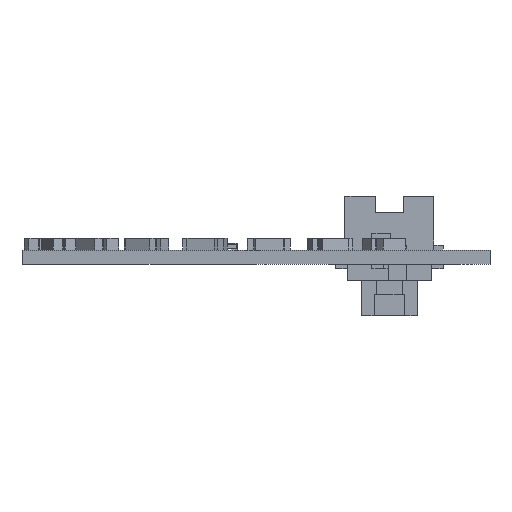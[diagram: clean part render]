
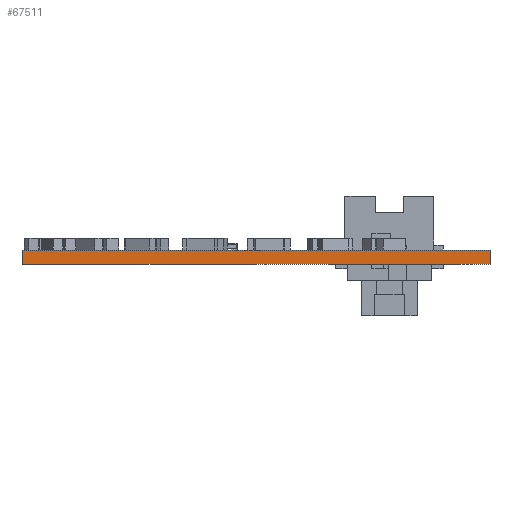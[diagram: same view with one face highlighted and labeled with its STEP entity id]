
A CAD part, left-side view. The second image highlights one B-rep face of the part: STEP entity #67511.
In plain terms, the highlighted planar face has unit normal (-1, 0, 0).
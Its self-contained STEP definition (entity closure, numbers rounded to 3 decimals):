
#67395 = EDGE_CURVE('',#67396,#67398,#67400,.T.);
#67396 = VERTEX_POINT('',#67397);
#67397 = CARTESIAN_POINT('',(10.,30.,0.));
#67398 = VERTEX_POINT('',#67399);
#67399 = CARTESIAN_POINT('',(10.,30.,0.6));
#67400 = SURFACE_CURVE('',#67401,(#67405,#67417),.PCURVE_S1.);
#67401 = LINE('',#67402,#67403);
#67402 = CARTESIAN_POINT('',(10.,30.,0.));
#67403 = VECTOR('',#67404,1.);
#67404 = DIRECTION('',(0.,0.,1.));
#67405 = PCURVE('',#67406,#67411);
#67406 = PLANE('',#67407);
#67407 = AXIS2_PLACEMENT_3D('',#67408,#67409,#67410);
#67408 = CARTESIAN_POINT('',(10.,30.,0.));
#67409 = DIRECTION('',(0.,1.,0.));
#67410 = DIRECTION('',(1.,0.,0.));
#67411 = DEFINITIONAL_REPRESENTATION('',(#67412),#67416);
#67412 = LINE('',#67413,#67414);
#67413 = CARTESIAN_POINT('',(0.,0.));
#67414 = VECTOR('',#67415,1.);
#67415 = DIRECTION('',(0.,-1.));
#67416 = ( GEOMETRIC_REPRESENTATION_CONTEXT(2) 
PARAMETRIC_REPRESENTATION_CONTEXT() REPRESENTATION_CONTEXT('2D SPACE',''
  ) );
#67417 = PCURVE('',#67418,#67423);
#67418 = PLANE('',#67419);
#67419 = AXIS2_PLACEMENT_3D('',#67420,#67421,#67422);
#67420 = CARTESIAN_POINT('',(10.,10.,0.));
#67421 = DIRECTION('',(-1.,0.,0.));
#67422 = DIRECTION('',(0.,1.,0.));
#67423 = DEFINITIONAL_REPRESENTATION('',(#67424),#67428);
#67424 = LINE('',#67425,#67426);
#67425 = CARTESIAN_POINT('',(20.,0.));
#67426 = VECTOR('',#67427,1.);
#67427 = DIRECTION('',(0.,-1.));
#67428 = ( GEOMETRIC_REPRESENTATION_CONTEXT(2) 
PARAMETRIC_REPRESENTATION_CONTEXT() REPRESENTATION_CONTEXT('2D SPACE',''
  ) );
#67446 = PLANE('',#67447);
#67447 = AXIS2_PLACEMENT_3D('',#67448,#67449,#67450);
#67448 = CARTESIAN_POINT('',(20.,20.,0.6));
#67449 = DIRECTION('',(-0.,-0.,-1.));
#67450 = DIRECTION('',(-1.,0.,0.));
#67500 = PLANE('',#67501);
#67501 = AXIS2_PLACEMENT_3D('',#67502,#67503,#67504);
#67502 = CARTESIAN_POINT('',(20.,20.,0.));
#67503 = DIRECTION('',(-0.,-0.,-1.));
#67504 = DIRECTION('',(-1.,0.,0.));
#67511 = ADVANCED_FACE('',(#67512),#67418,.T.);
#67512 = FACE_BOUND('',#67513,.T.);
#67513 = EDGE_LOOP('',(#67514,#67544,#67565,#67566));
#67514 = ORIENTED_EDGE('',*,*,#67515,.T.);
#67515 = EDGE_CURVE('',#67516,#67518,#67520,.T.);
#67516 = VERTEX_POINT('',#67517);
#67517 = CARTESIAN_POINT('',(10.,10.,0.));
#67518 = VERTEX_POINT('',#67519);
#67519 = CARTESIAN_POINT('',(10.,10.,0.6));
#67520 = SURFACE_CURVE('',#67521,(#67525,#67532),.PCURVE_S1.);
#67521 = LINE('',#67522,#67523);
#67522 = CARTESIAN_POINT('',(10.,10.,0.));
#67523 = VECTOR('',#67524,1.);
#67524 = DIRECTION('',(0.,0.,1.));
#67525 = PCURVE('',#67418,#67526);
#67526 = DEFINITIONAL_REPRESENTATION('',(#67527),#67531);
#67527 = LINE('',#67528,#67529);
#67528 = CARTESIAN_POINT('',(0.,0.));
#67529 = VECTOR('',#67530,1.);
#67530 = DIRECTION('',(0.,-1.));
#67531 = ( GEOMETRIC_REPRESENTATION_CONTEXT(2) 
PARAMETRIC_REPRESENTATION_CONTEXT() REPRESENTATION_CONTEXT('2D SPACE',''
  ) );
#67532 = PCURVE('',#67533,#67538);
#67533 = PLANE('',#67534);
#67534 = AXIS2_PLACEMENT_3D('',#67535,#67536,#67537);
#67535 = CARTESIAN_POINT('',(30.,10.,0.));
#67536 = DIRECTION('',(0.,-1.,0.));
#67537 = DIRECTION('',(-1.,0.,0.));
#67538 = DEFINITIONAL_REPRESENTATION('',(#67539),#67543);
#67539 = LINE('',#67540,#67541);
#67540 = CARTESIAN_POINT('',(20.,0.));
#67541 = VECTOR('',#67542,1.);
#67542 = DIRECTION('',(0.,-1.));
#67543 = ( GEOMETRIC_REPRESENTATION_CONTEXT(2) 
PARAMETRIC_REPRESENTATION_CONTEXT() REPRESENTATION_CONTEXT('2D SPACE',''
  ) );
#67544 = ORIENTED_EDGE('',*,*,#67545,.T.);
#67545 = EDGE_CURVE('',#67518,#67398,#67546,.T.);
#67546 = SURFACE_CURVE('',#67547,(#67551,#67558),.PCURVE_S1.);
#67547 = LINE('',#67548,#67549);
#67548 = CARTESIAN_POINT('',(10.,10.,0.6));
#67549 = VECTOR('',#67550,1.);
#67550 = DIRECTION('',(0.,1.,0.));
#67551 = PCURVE('',#67418,#67552);
#67552 = DEFINITIONAL_REPRESENTATION('',(#67553),#67557);
#67553 = LINE('',#67554,#67555);
#67554 = CARTESIAN_POINT('',(0.,-0.6));
#67555 = VECTOR('',#67556,1.);
#67556 = DIRECTION('',(1.,0.));
#67557 = ( GEOMETRIC_REPRESENTATION_CONTEXT(2) 
PARAMETRIC_REPRESENTATION_CONTEXT() REPRESENTATION_CONTEXT('2D SPACE',''
  ) );
#67558 = PCURVE('',#67446,#67559);
#67559 = DEFINITIONAL_REPRESENTATION('',(#67560),#67564);
#67560 = LINE('',#67561,#67562);
#67561 = CARTESIAN_POINT('',(10.,-10.));
#67562 = VECTOR('',#67563,1.);
#67563 = DIRECTION('',(0.,1.));
#67564 = ( GEOMETRIC_REPRESENTATION_CONTEXT(2) 
PARAMETRIC_REPRESENTATION_CONTEXT() REPRESENTATION_CONTEXT('2D SPACE',''
  ) );
#67565 = ORIENTED_EDGE('',*,*,#67395,.F.);
#67566 = ORIENTED_EDGE('',*,*,#67567,.F.);
#67567 = EDGE_CURVE('',#67516,#67396,#67568,.T.);
#67568 = SURFACE_CURVE('',#67569,(#67573,#67580),.PCURVE_S1.);
#67569 = LINE('',#67570,#67571);
#67570 = CARTESIAN_POINT('',(10.,10.,0.));
#67571 = VECTOR('',#67572,1.);
#67572 = DIRECTION('',(0.,1.,0.));
#67573 = PCURVE('',#67418,#67574);
#67574 = DEFINITIONAL_REPRESENTATION('',(#67575),#67579);
#67575 = LINE('',#67576,#67577);
#67576 = CARTESIAN_POINT('',(0.,0.));
#67577 = VECTOR('',#67578,1.);
#67578 = DIRECTION('',(1.,0.));
#67579 = ( GEOMETRIC_REPRESENTATION_CONTEXT(2) 
PARAMETRIC_REPRESENTATION_CONTEXT() REPRESENTATION_CONTEXT('2D SPACE',''
  ) );
#67580 = PCURVE('',#67500,#67581);
#67581 = DEFINITIONAL_REPRESENTATION('',(#67582),#67586);
#67582 = LINE('',#67583,#67584);
#67583 = CARTESIAN_POINT('',(10.,-10.));
#67584 = VECTOR('',#67585,1.);
#67585 = DIRECTION('',(0.,1.));
#67586 = ( GEOMETRIC_REPRESENTATION_CONTEXT(2) 
PARAMETRIC_REPRESENTATION_CONTEXT() REPRESENTATION_CONTEXT('2D SPACE',''
  ) );
